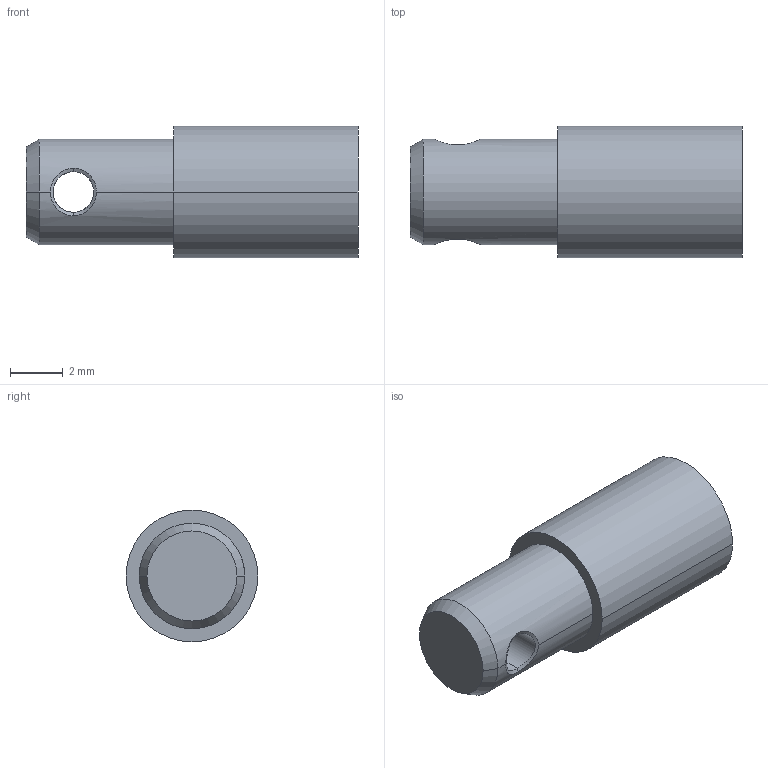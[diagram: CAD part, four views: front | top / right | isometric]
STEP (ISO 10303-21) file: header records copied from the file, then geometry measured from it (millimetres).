
FILE_DESCRIPTION (( 'STEP AP214' ), '1' );
FILE_NAME ('SS-flat-tip.STEP', '2026-08-10T05:14:55', ( '' ), ( '' ), 'SwSTEP 2.0', 'SolidWorks 2019', '' );
FILE_SCHEMA (( 'AUTOMOTIVE_DESIGN' ));
Length unit declared in the file: millimetre
Products named in the file (2): SS-flat-tip
Bounding box: 12.6 x 5 x 5 mm (x, y, z)
Volume: 199.6 mm3; surface area: 230.8 mm2
Topology: 1 solids, 1 shells, 15 faces, 38 edges, 24 vertices
Faces by surface type: cylinder 6, bspline 4, plane 3, cone 2
Entity records: 2452 total; most frequent: CARTESIAN_POINT 2076, ORIENTED_EDGE 76, DIRECTION 56, EDGE_CURVE 38, VERTEX_POINT 24, AXIS2_PLACEMENT_3D 23, B_SPLINE_CURVE_WITH_KNOTS 18, EDGE_LOOP 16
